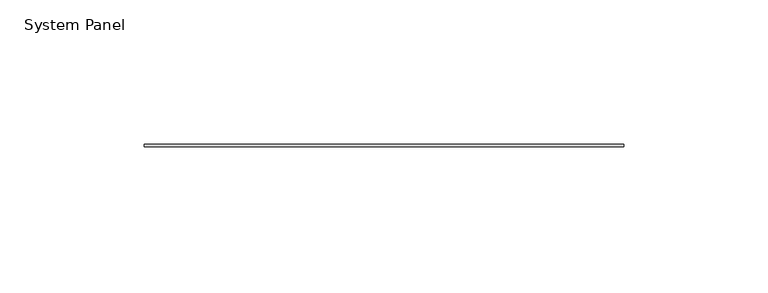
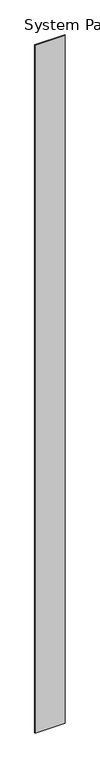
"""IFC4 building model written with IfcOpenShell, lengths in millimetres: plate geometry, System Panel : Stratco_Hiland_Tray."""

from ifc_helpers import new_model, si_unit, origin, origin_with_axes, place, context, project, spatial, polyline, outline, extrude, source, transform, mapped, element, save


def system_panel_f5160eba(model_context):
    return source(origin(), model_context, "Body", "SweptSolid", [
        extrude(outline(polyline([(83.2889718, 2.5), (-83.2889718, 2.5), (-83.2889718, 3.5), (83.2889718, 3.5), (83.2889718, 2.5)])), origin_with_axes(), (0.0, 0.0, 1.0), 4000.0),
    ])


if __name__ == "__main__":
    model = new_model("IFC4")
    model_context = context("Model", 3, world=origin())
    ifc_project = project(units=[si_unit("LENGTHUNIT", "METRE", prefix="MILLI")], contexts=[model_context])
    site = spatial("IfcSite", under=ifc_project)
    building = spatial("IfcBuilding", under=site)
    placement = place(None, origin())
    system_panel_shape = system_panel_f5160eba(model_context)
    element("IfcPlate", 1, ObjectType="System Panel : Stratco_Hiland_Tray", at=placement, inside=building, context=model_context, shape_type="MappedRepresentation", body=[
        mapped(system_panel_shape, transform((0.0, 0.0, 0.0), x_axis=(1.0, 0.0, 0.0), y_axis=(0.0, 1.0, 0.0), z_axis=(0.0, 0.0, 1.0))),
    ])
    save(model, "model.ifc")
